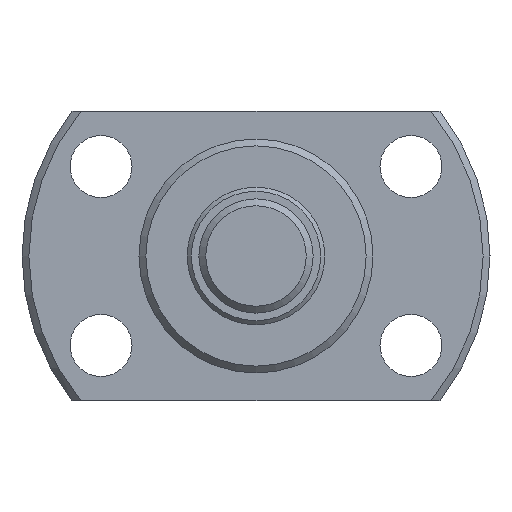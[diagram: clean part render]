
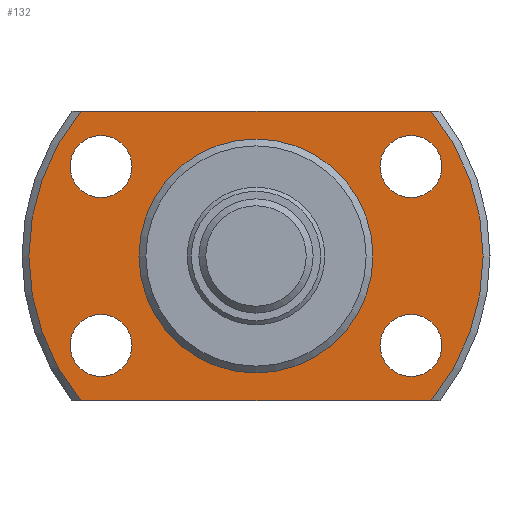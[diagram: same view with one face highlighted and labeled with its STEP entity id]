
A CAD part, left-side view. The second image highlights one B-rep face of the part: STEP entity #132.
In plain terms, the highlighted planar face has unit normal (-1, 0, 0).
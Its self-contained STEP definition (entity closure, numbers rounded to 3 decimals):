
#132 = ADVANCED_FACE( '', ( #262, #263, #264, #265, #266, #267 ), #268, .F. );
#262 = FACE_OUTER_BOUND( '', #418, .T. );
#263 = FACE_BOUND( '', #419, .T. );
#264 = FACE_BOUND( '', #420, .T. );
#265 = FACE_BOUND( '', #421, .T. );
#266 = FACE_BOUND( '', #422, .T. );
#267 = FACE_BOUND( '', #423, .T. );
#268 = PLANE( '', #424 );
#418 = EDGE_LOOP( '', ( #595, #596, #597, #598 ) );
#419 = EDGE_LOOP( '', ( #599 ) );
#420 = EDGE_LOOP( '', ( #600 ) );
#421 = EDGE_LOOP( '', ( #601 ) );
#422 = EDGE_LOOP( '', ( #602 ) );
#423 = EDGE_LOOP( '', ( #603 ) );
#424 = AXIS2_PLACEMENT_3D( '', #604, #605, #606 );
#595 = ORIENTED_EDGE( '', *, *, #830, .F. );
#596 = ORIENTED_EDGE( '', *, *, #831, .F. );
#597 = ORIENTED_EDGE( '', *, *, #832, .F. );
#598 = ORIENTED_EDGE( '', *, *, #833, .F. );
#599 = ORIENTED_EDGE( '', *, *, #834, .T. );
#600 = ORIENTED_EDGE( '', *, *, #813, .T. );
#601 = ORIENTED_EDGE( '', *, *, #835, .T. );
#602 = ORIENTED_EDGE( '', *, *, #836, .T. );
#603 = ORIENTED_EDGE( '', *, *, #837, .T. );
#604 = CARTESIAN_POINT( '', ( 14., 8.35, 0. ) );
#605 = DIRECTION( '', ( 1., 0., 0. ) );
#606 = DIRECTION( '', ( 0., 0., -1. ) );
#813 = EDGE_CURVE( '', #923, #923, #924, .T. );
#830 = EDGE_CURVE( '', #948, #949, #950, .T. );
#831 = EDGE_CURVE( '', #951, #948, #952, .T. );
#832 = EDGE_CURVE( '', #953, #951, #954, .T. );
#833 = EDGE_CURVE( '', #949, #953, #955, .T. );
#834 = EDGE_CURVE( '', #956, #956, #957, .T. );
#835 = EDGE_CURVE( '', #958, #958, #959, .T. );
#836 = EDGE_CURVE( '', #960, #960, #961, .T. );
#837 = EDGE_CURVE( '', #962, #962, #963, .T. );
#923 = VERTEX_POINT( '', #1075 );
#924 = CIRCLE( '', #1076, 2.25 );
#948 = VERTEX_POINT( '', #1103 );
#949 = VERTEX_POINT( '', #1104 );
#950 = CIRCLE( '', #1105, 16.5 );
#951 = VERTEX_POINT( '', #1106 );
#952 = LINE( '', #1107, #1108 );
#953 = VERTEX_POINT( '', #1109 );
#954 = CIRCLE( '', #1110, 16.5 );
#955 = LINE( '', #1111, #1112 );
#956 = VERTEX_POINT( '', #1113 );
#957 = CIRCLE( '', #1114, 2.25 );
#958 = VERTEX_POINT( '', #1115 );
#959 = CIRCLE( '', #1116, 2.25 );
#960 = VERTEX_POINT( '', #1117 );
#961 = CIRCLE( '', #1118, 2.25 );
#962 = VERTEX_POINT( '', #1119 );
#963 = CIRCLE( '', #1120, 8.35 );
#1075 = CARTESIAN_POINT( '', ( 14., -11.258, -8.75 ) );
#1076 = AXIS2_PLACEMENT_3D( '', #1256, #1257, #1258 );
#1103 = CARTESIAN_POINT( '', ( 14., 12.728, -10.5 ) );
#1104 = CARTESIAN_POINT( '', ( 14., 12.728, 10.5 ) );
#1105 = AXIS2_PLACEMENT_3D( '', #1283, #1284, #1285 );
#1106 = CARTESIAN_POINT( '', ( 14., -12.728, -10.5 ) );
#1107 = CARTESIAN_POINT( '', ( 14., -34., -10.5 ) );
#1108 = VECTOR( '', #1286, 1000. );
#1109 = CARTESIAN_POINT( '', ( 14., -12.728, 10.5 ) );
#1110 = AXIS2_PLACEMENT_3D( '', #1287, #1288, #1289 );
#1111 = CARTESIAN_POINT( '', ( 14., 34., 10.5 ) );
#1112 = VECTOR( '', #1290, 1000. );
#1113 = CARTESIAN_POINT( '', ( 14., -11.258, 4.25 ) );
#1114 = AXIS2_PLACEMENT_3D( '', #1291, #1292, #1293 );
#1115 = CARTESIAN_POINT( '', ( 14., 11.258, -8.75 ) );
#1116 = AXIS2_PLACEMENT_3D( '', #1294, #1295, #1296 );
#1117 = CARTESIAN_POINT( '', ( 14., 11.258, 4.25 ) );
#1118 = AXIS2_PLACEMENT_3D( '', #1297, #1298, #1299 );
#1119 = CARTESIAN_POINT( '', ( 14., 0., -8.35 ) );
#1120 = AXIS2_PLACEMENT_3D( '', #1300, #1301, #1302 );
#1256 = CARTESIAN_POINT( '', ( 14., -11.258, -6.5 ) );
#1257 = DIRECTION( '', ( 1., 0., 0. ) );
#1258 = DIRECTION( '', ( 0., 0., -1. ) );
#1283 = CARTESIAN_POINT( '', ( 14., 0., 0. ) );
#1284 = DIRECTION( '', ( 1., 0., 0. ) );
#1285 = DIRECTION( '', ( 0., 0., -1. ) );
#1286 = DIRECTION( '', ( 0., 1., 0. ) );
#1287 = CARTESIAN_POINT( '', ( 14., 0., 0. ) );
#1288 = DIRECTION( '', ( 1., 0., 0. ) );
#1289 = DIRECTION( '', ( 0., 0., -1. ) );
#1290 = DIRECTION( '', ( 0., -1., 0. ) );
#1291 = CARTESIAN_POINT( '', ( 14., -11.258, 6.5 ) );
#1292 = DIRECTION( '', ( 1., 0., 0. ) );
#1293 = DIRECTION( '', ( 0., 0., -1. ) );
#1294 = CARTESIAN_POINT( '', ( 14., 11.258, -6.5 ) );
#1295 = DIRECTION( '', ( 1., 0., 0. ) );
#1296 = DIRECTION( '', ( 0., 0., -1. ) );
#1297 = CARTESIAN_POINT( '', ( 14., 11.258, 6.5 ) );
#1298 = DIRECTION( '', ( 1., 0., 0. ) );
#1299 = DIRECTION( '', ( 0., 0., -1. ) );
#1300 = CARTESIAN_POINT( '', ( 14., 0., 0. ) );
#1301 = DIRECTION( '', ( 1., 0., 0. ) );
#1302 = DIRECTION( '', ( 0., 0., -1. ) );
